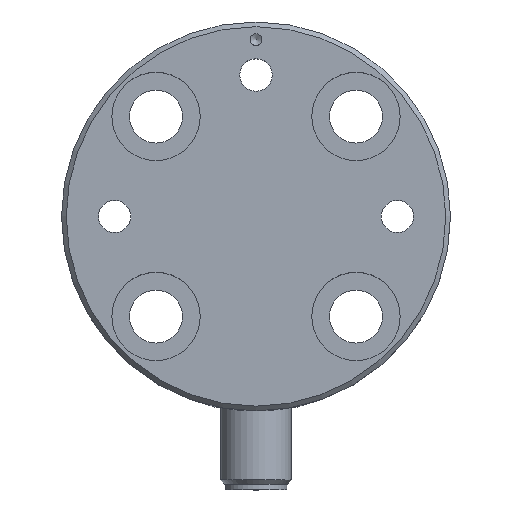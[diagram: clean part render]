
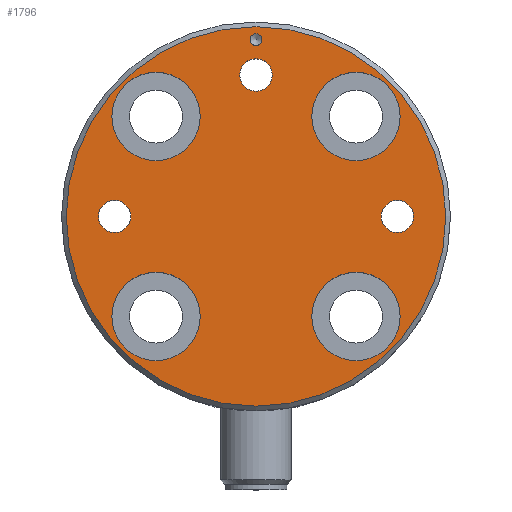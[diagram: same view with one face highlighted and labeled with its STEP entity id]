
A CAD part, top view. The second image highlights one B-rep face of the part: STEP entity #1796.
In plain terms, the highlighted planar face has unit normal (0, 0, 1).
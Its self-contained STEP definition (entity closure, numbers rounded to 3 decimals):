
#1190=CARTESIAN_POINT('',(-24.,2.75,20.0));
#1191=VERTEX_POINT('',#1190);
#1192=CARTESIAN_POINT('',(-24.,0.,20.0));
#1193=DIRECTION('',(0.0,0.0,-1.0));
#1194=DIRECTION('',(0.0,-1.0,0.0));
#1195=AXIS2_PLACEMENT_3D('',#1192,#1193,#1194);
#1196=CIRCLE('',#1195,2.75);
#1197=EDGE_CURVE('',#1191,#1191,#1196,.T.);
#1300=CARTESIAN_POINT('',(24.,-2.75,20.0));
#1301=VERTEX_POINT('',#1300);
#1302=CARTESIAN_POINT('',(24.,0.,20.0));
#1303=DIRECTION('',(0.0,0.0,-1.0));
#1304=DIRECTION('',(0.0,1.0,0.0));
#1305=AXIS2_PLACEMENT_3D('',#1302,#1303,#1304);
#1306=CIRCLE('',#1305,2.75);
#1307=EDGE_CURVE('',#1301,#1301,#1306,.T.);
#1410=CARTESIAN_POINT('',(2.75,24.,20.0));
#1411=VERTEX_POINT('',#1410);
#1412=CARTESIAN_POINT('',(0.0,24.,20.0));
#1413=DIRECTION('',(0.0,0.0,-1.0));
#1414=DIRECTION('',(-1.0,0.0,0.0));
#1415=AXIS2_PLACEMENT_3D('',#1412,#1413,#1414);
#1416=CIRCLE('',#1415,2.75);
#1417=EDGE_CURVE('',#1411,#1411,#1416,.T.);
#1489=CARTESIAN_POINT('',(1.0,30.0,20.0));
#1490=VERTEX_POINT('',#1489);
#1491=CARTESIAN_POINT('',(0.0,30.0,20.0));
#1492=DIRECTION('',(0.0,0.0,-1.0));
#1493=DIRECTION('',(1.0,0.0,0.0));
#1494=AXIS2_PLACEMENT_3D('',#1491,#1492,#1493);
#1495=CIRCLE('',#1494,1.0);
#1496=EDGE_CURVE('',#1490,#1490,#1495,.T.);
#1717=CARTESIAN_POINT('',(32.2,0.,20.0));
#1718=VERTEX_POINT('',#1717);
#1719=CARTESIAN_POINT('',(0.0,0.0,20.0));
#1720=DIRECTION('',(0.0,0.0,-1.0));
#1721=DIRECTION('',(-1.0,0.0,0.0));
#1722=AXIS2_PLACEMENT_3D('',#1719,#1720,#1721);
#1723=CIRCLE('',#1722,32.2);
#1724=EDGE_CURVE('',#1718,#1718,#1723,.T.);
#1732=CARTESIAN_POINT('',(0.0,0.0,20.0));
#1733=DIRECTION('',(0.0,0.0,-1.0));
#1734=DIRECTION('',(-1.0,0.0,0.0));
#1735=AXIS2_PLACEMENT_3D('',#1732,#1733,#1734);
#1736=PLANE('',#1735);
#1737=ORIENTED_EDGE('',*,*,#1724,.F.);
#1738=EDGE_LOOP('',(#1737));
#1739=FACE_OUTER_BOUND('',#1738,.T.);
#1740=ORIENTED_EDGE('',*,*,#1197,.T.);
#1741=EDGE_LOOP('',(#1740));
#1742=FACE_BOUND('',#1741,.T.);
#1743=ORIENTED_EDGE('',*,*,#1307,.T.);
#1744=EDGE_LOOP('',(#1743));
#1745=FACE_BOUND('',#1744,.T.);
#1746=ORIENTED_EDGE('',*,*,#1417,.T.);
#1747=EDGE_LOOP('',(#1746));
#1748=FACE_BOUND('',#1747,.T.);
#1749=ORIENTED_EDGE('',*,*,#1496,.T.);
#1750=EDGE_LOOP('',(#1749));
#1751=FACE_BOUND('',#1750,.T.);
#1752=CARTESIAN_POINT('',(16.971,-24.471,20.0));
#1753=VERTEX_POINT('',#1752);
#1754=CARTESIAN_POINT('',(16.971,-16.971,20.0));
#1755=DIRECTION('',(0.0,0.0,-1.0));
#1756=DIRECTION('',(0.0,-1.0,0.0));
#1757=AXIS2_PLACEMENT_3D('',#1754,#1755,#1756);
#1758=CIRCLE('',#1757,7.5);
#1759=EDGE_CURVE('',#1753,#1753,#1758,.T.);
#1760=ORIENTED_EDGE('',*,*,#1759,.T.);
#1761=EDGE_LOOP('',(#1760));
#1762=FACE_BOUND('',#1761,.T.);
#1763=CARTESIAN_POINT('',(-24.471,-16.971,20.0));
#1764=VERTEX_POINT('',#1763);
#1765=CARTESIAN_POINT('',(-16.971,-16.971,20.0));
#1766=DIRECTION('',(0.0,0.0,-1.0));
#1767=DIRECTION('',(-1.0,0.0,0.0));
#1768=AXIS2_PLACEMENT_3D('',#1765,#1766,#1767);
#1769=CIRCLE('',#1768,7.5);
#1770=EDGE_CURVE('',#1764,#1764,#1769,.T.);
#1771=ORIENTED_EDGE('',*,*,#1770,.T.);
#1772=EDGE_LOOP('',(#1771));
#1773=FACE_BOUND('',#1772,.T.);
#1774=CARTESIAN_POINT('',(-16.971,24.471,20.0));
#1775=VERTEX_POINT('',#1774);
#1776=CARTESIAN_POINT('',(-16.971,16.971,20.0));
#1777=DIRECTION('',(0.0,0.0,-1.0));
#1778=DIRECTION('',(0.0,1.0,0.0));
#1779=AXIS2_PLACEMENT_3D('',#1776,#1777,#1778);
#1780=CIRCLE('',#1779,7.5);
#1781=EDGE_CURVE('',#1775,#1775,#1780,.T.);
#1782=ORIENTED_EDGE('',*,*,#1781,.T.);
#1783=EDGE_LOOP('',(#1782));
#1784=FACE_BOUND('',#1783,.T.);
#1785=CARTESIAN_POINT('',(24.471,16.971,20.0));
#1786=VERTEX_POINT('',#1785);
#1787=CARTESIAN_POINT('',(16.971,16.971,20.0));
#1788=DIRECTION('',(0.0,0.0,-1.0));
#1789=DIRECTION('',(1.0,0.0,0.0));
#1790=AXIS2_PLACEMENT_3D('',#1787,#1788,#1789);
#1791=CIRCLE('',#1790,7.5);
#1792=EDGE_CURVE('',#1786,#1786,#1791,.T.);
#1793=ORIENTED_EDGE('',*,*,#1792,.T.);
#1794=EDGE_LOOP('',(#1793));
#1795=FACE_BOUND('',#1794,.T.);
#1796=ADVANCED_FACE('',(#1739,#1742,#1745,#1748,#1751,#1762,#1773,#1784,#1795),#1736,.F.);
